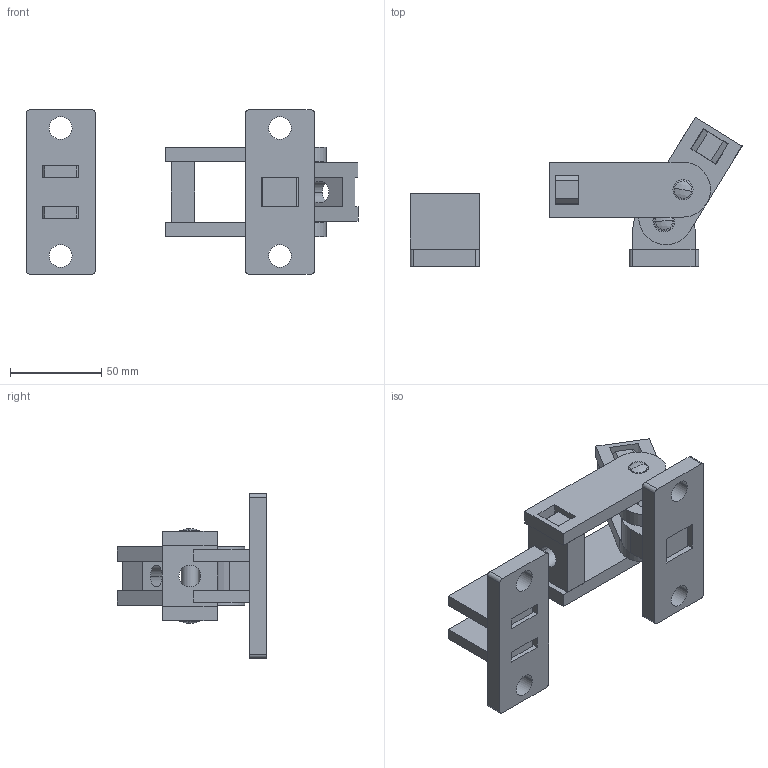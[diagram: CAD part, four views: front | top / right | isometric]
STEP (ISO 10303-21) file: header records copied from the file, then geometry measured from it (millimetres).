
FILE_DESCRIPTION (( 'STEP AP203' ), '1' );
FILE_NAME ('KFT-14.step', '2011-05-12T15:01:51', ( 'Usuario' ), ( '' ), 'SwSTEP 2.0', 'SolidWorks 2011', '' );
FILE_SCHEMA (( 'CONFIG_CONTROL_DESIGN' ));
Length unit declared in the file: millimetre
Products named in the file (11): KFT-14; 16.20005_Remanchado; 16.20004_Remanchado; 09.10004_Montagem; 03.10004; 09.10003_Montagem; 03.10003; 15.10003; 02.10006; 02.10005; 02.10004
Assembly tree (13 placements, depth 2):
  KFT-14
    03.10003  x2
    09.10003_Montagem
    03.10004  x2
    02.10006
    02.10005  x2
    16.20005_Remanchado
    15.10003
    02.10004
    09.10004_Montagem
    16.20004_Remanchado
Bounding box: 181.72 x 81.7 x 90 mm (x, y, z)
Volume: 171855.6 mm3; surface area: 66130.8 mm2
Topology: 13 solids, 13 shells, 193 faces, 487 edges, 326 vertices
Faces by surface type: plane 135, cylinder 50, sphere 8
Entity records: 5910 total; most frequent: DIRECTION 817, CARTESIAN_POINT 811, ORIENTED_EDGE 770, EDGE_CURVE 385, LINE 289, VECTOR 289, AXIS2_PLACEMENT_3D 264, VERTEX_POINT 258
